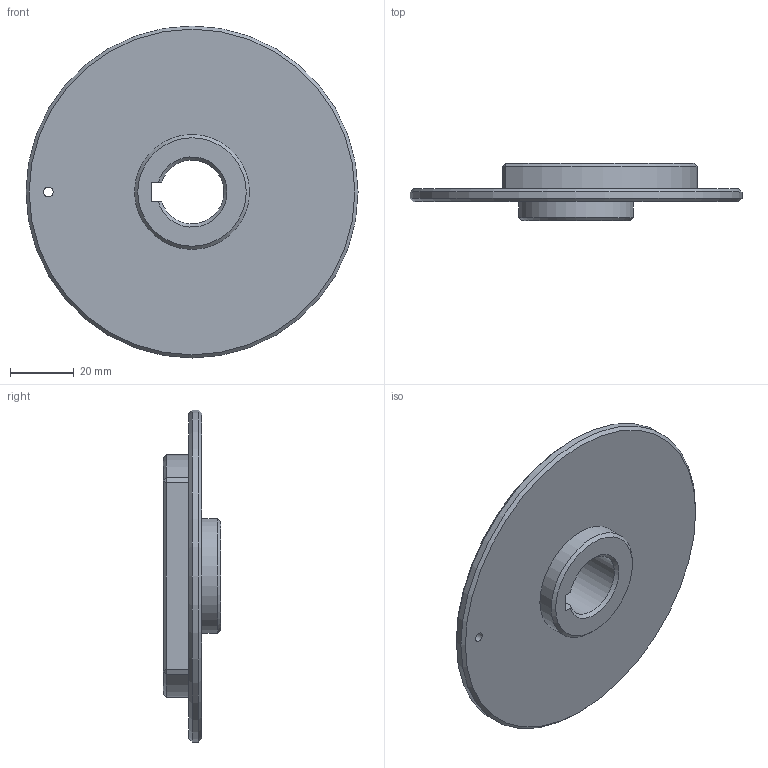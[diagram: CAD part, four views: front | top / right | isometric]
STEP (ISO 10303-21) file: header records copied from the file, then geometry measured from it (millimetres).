
FILE_DESCRIPTION(/* description */ (''),/* implementation_level */ '2;1');
FILE_NAME(/* name */ '',/* time_stamp */ '2025-09-02T10:50:35+09:00',/* author */ ('jhkim'),/* organization */ (''),/* preprocessor_version */ 'ST-DEVELOPER v20.1',/* originating_system */ 'Autodesk Inventor 2026',/* authorisation */ '');
FILE_SCHEMA (('AUTOMOTIVE_DESIGN { 1 0 10303 214 3 1 1 }'));
Length unit declared in the file: millimetre
Products named in the file (1): 구동 휠
Bounding box: 104 x 18 x 104 mm (x, y, z)
Volume: 64771.6 mm3; surface area: 20787.4 mm2
Topology: 1 solids, 1 shells, 24 faces, 54 edges, 34 vertices
Faces by surface type: plane 13, cone 6, cylinder 5
Full cylindrical faces by diameter (mm): 3 x1, 36 x1, 104 x1
Entity records: 717 total; most frequent: CARTESIAN_POINT 121, DIRECTION 120, ORIENTED_EDGE 108, EDGE_CURVE 54, AXIS2_PLACEMENT_3D 45, VERTEX_POINT 34, LINE 30, VECTOR 30
